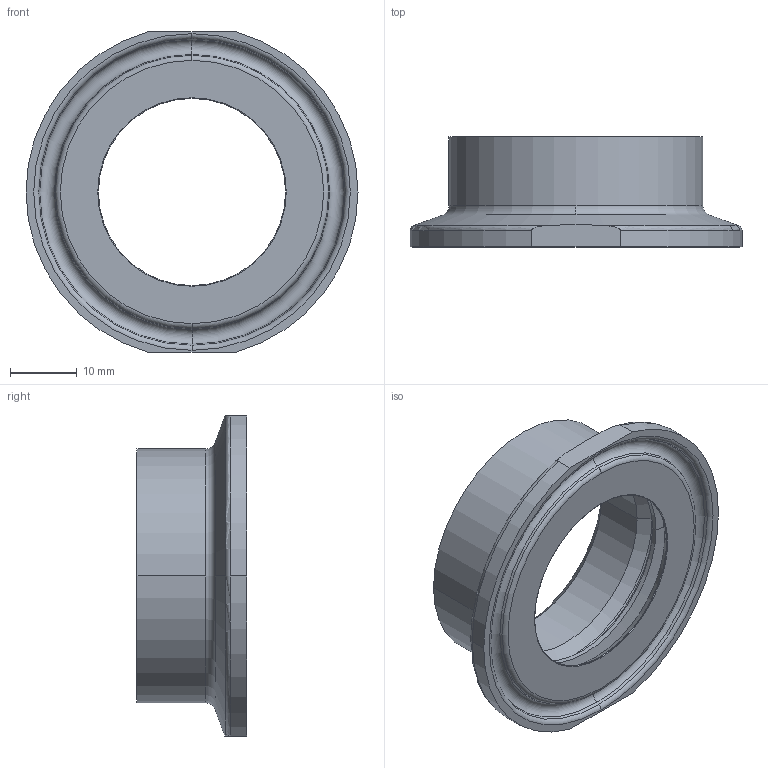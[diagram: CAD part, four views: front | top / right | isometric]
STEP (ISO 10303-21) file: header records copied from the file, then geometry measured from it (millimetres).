
FILE_DESCRIPTION( ( '' ), '1' );
FILE_NAME( '//expscmdclustefs.cadenas.external/client_exchange/iodir/jobs/output/wkb55035291_no0/STEP/E33201_204.stp', '2013-03-01T09:49:57', ( '' ), ( '' ), ' ', ' ', ' ' );
FILE_SCHEMA( ( 'CONFIG_CONTROL_DESIGN' ) );
Length unit declared in the file: millimetre
Products named in the file (1): 1
Bounding box: 49.8 x 16.5 x 48 mm (x, y, z)
Volume: 8497.5 mm3; surface area: 7053 mm2
Topology: 1 solids, 1 shells, 57 faces, 150 edges, 98 vertices
Faces by surface type: torus 22, cone 16, cylinder 12, plane 7
Entity records: 1942 total; most frequent: CARTESIAN_POINT 386, DIRECTION 372, ORIENTED_EDGE 300, AXIS2_PLACEMENT_3D 170, EDGE_CURVE 150, CIRCLE 112, VERTEX_POINT 98, EDGE_LOOP 62
